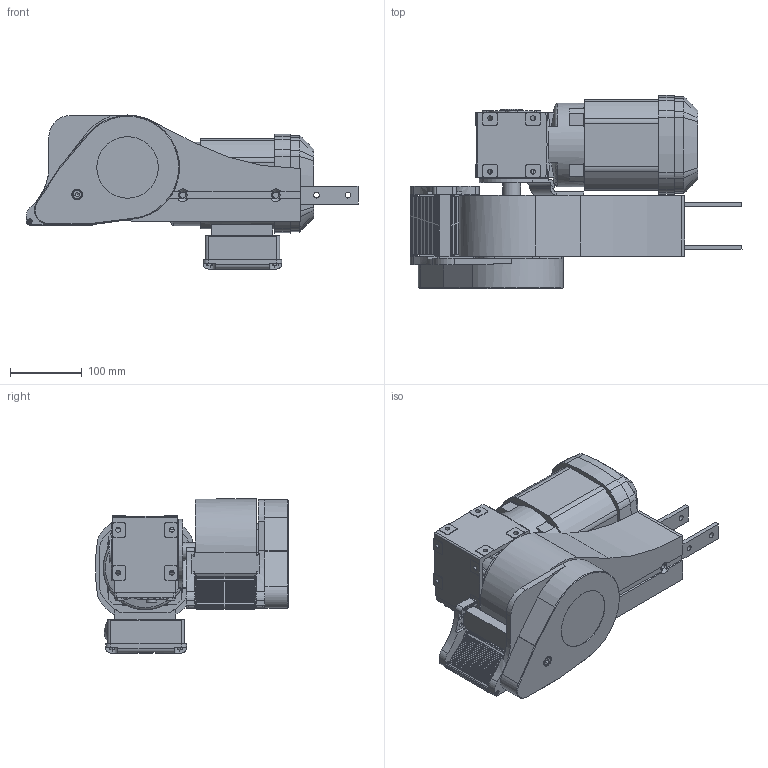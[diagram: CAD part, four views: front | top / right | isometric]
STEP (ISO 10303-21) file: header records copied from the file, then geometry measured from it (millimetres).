
FILE_DESCRIPTION(/* description */ (''),/* implementation_level */ '2;1');
FILE_NAME(/* name */ 'C:\CAD-MAG-2021\Technik\20_MAG-Konstruktion\01_FT - Fördertechnik\58000\57701-LD.stp',/* time_stamp */ '2024-09-25T13:27:38+02:00',/* author */ ('dwt0'),/* organization */ ('MAG'),/* preprocessor_version */ 'ST-DEVELOPER v18.1',/* originating_system */ 'Autodesk Inventor 2021',/* authorisation */ '');
FILE_SCHEMA (('CONFIG_CONTROL_DESIGN'));
Length unit declared in the file: millimetre
Products named in the file (1): 57701-LD
Bounding box: 463.94 x 269.64 x 215.3 mm (x, y, z)
Volume: 8189424.7 mm3; surface area: 674673 mm2
Topology: 13 solids, 67 shells, 2840 faces, 7837 edges, 5173 vertices
Faces by surface type: plane 1316, cylinder 1011, bspline 290, cone 131, torus 74, sphere 18
Full cylindrical faces by diameter (mm): 2 x2, 2.459 x4, 3 x4, 3.2 x4, 3.242 x6, 4 x15, 4.1 x2, 4.3 x1, 4.917 x4, 5 x8, 5.5 x4, 6 x23, 6.2 x1, 6.4 x1, 6.5 x8, 6.6 x8, 6.647 x1, 8 x14, 8.5 x6, 9 x7, 10 x10, 11 x5, 12 x12, 12.5 x1, 13 x6, 14 x3, 15 x6, 15.216 x4, 16 x1, 16.7 x2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
Entity records: 99228 total; most frequent: CARTESIAN_POINT 23838, ORIENTED_EDGE 15580, DIRECTION 14552, EDGE_CURVE 7790, VERTEX_POINT 5221, AXIS2_PLACEMENT_3D 5075, LINE 4402, VECTOR 4402
